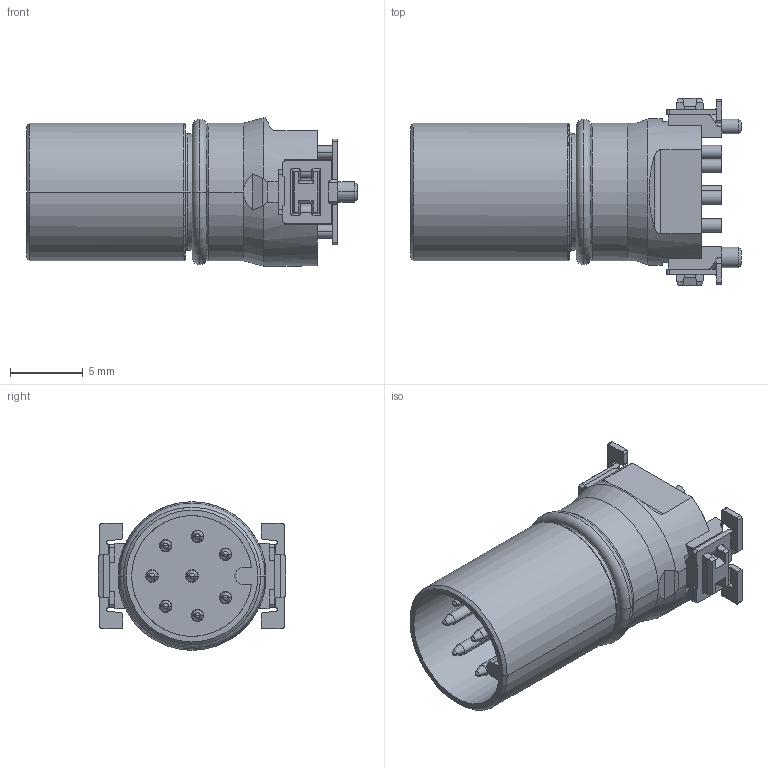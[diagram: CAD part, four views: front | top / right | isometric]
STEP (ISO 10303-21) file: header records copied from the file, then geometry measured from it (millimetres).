
FILE_DESCRIPTION((''),'2;1');
FILE_NAME('M12A-08PMMT-EE0001_SW0001','2020-07-29T',('L180066'),(''),'PRO/ENGINEER BY PARAMETRIC TECHNOLOGY CORPORATION, 2017170','PRO/ENGINEER BY PARAMETRIC TECHNOLOGY CORPORATION, 2017170','');
FILE_SCHEMA(('CONFIG_CONTROL_DESIGN'));
Length unit declared in the file: millimetre
Products named in the file (1): M12A-08PMMT-EE0001_SW0001
Bounding box: 22.75 x 12.9 x 10.2 mm (x, y, z)
Volume: 1064.2 mm3; surface area: 1576 mm2
Topology: 2 solids, 2 shells, 468 faces, 1189 edges, 754 vertices
Faces by surface type: plane 247, cylinder 169, cone 24, sphere 16, torus 12
Entity records: 14141 total; most frequent: CARTESIAN_POINT 2580, DIRECTION 2491, ORIENTED_EDGE 2346, EDGE_CURVE 1173, AXIS2_PLACEMENT_3D 881, VERTEX_POINT 754, VECTOR 729, LINE 729
